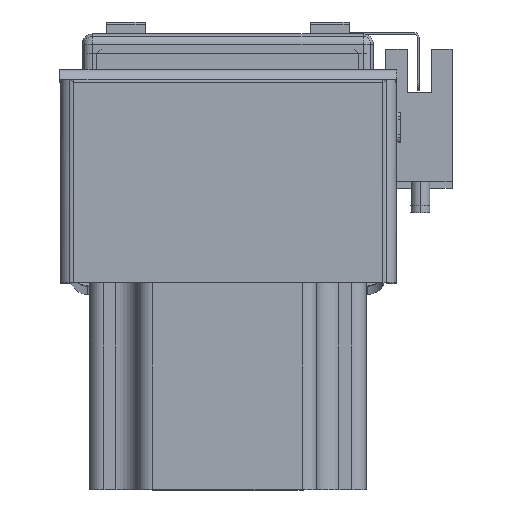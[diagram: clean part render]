
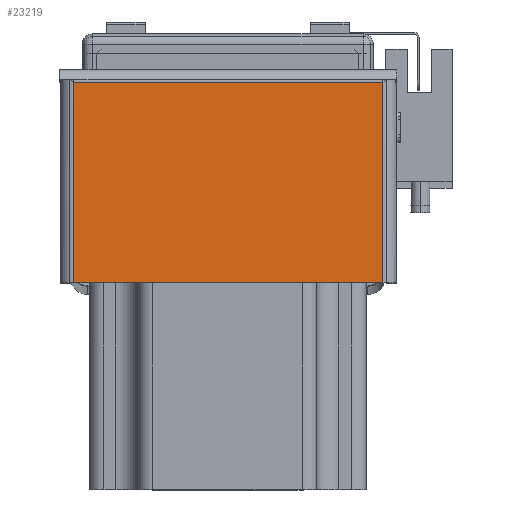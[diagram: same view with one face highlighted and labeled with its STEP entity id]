
A CAD part, top view. The second image highlights one B-rep face of the part: STEP entity #23219.
In plain terms, the highlighted planar face has unit normal (0, 0, 1) as drawn and (1, 0, 0) by its records, which use the part's own axes.
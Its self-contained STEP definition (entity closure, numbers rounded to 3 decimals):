
#4284 = FACE_OUTER_BOUND ( 'NONE', #25423, .T. ) ;
#6333 = AXIS2_PLACEMENT_3D ( 'NONE', #6770, #6786, #6764 ) ;
#6764 = DIRECTION ( 'NONE',  ( 0., 0., 1. ) ) ;
#6768 = PLANE ( 'NONE',  #6333 ) ;
#6770 = CARTESIAN_POINT ( 'NONE',  ( 2., 42., -32.6 ) ) ;
#6786 = DIRECTION ( 'NONE',  ( -1., 0., 0. ) ) ;
#23219 = ADVANCED_FACE ( 'NONE', ( #4284 ), #6768, .F. ) ;
#24674 = CARTESIAN_POINT ( 'NONE',  ( 2., 42., -31.863 ) ) ;
#24680 = CARTESIAN_POINT ( 'NONE',  ( 2., 41.263, -31.863 ) ) ;
#24683 = DIRECTION ( 'NONE',  ( 0., 0., 1. ) ) ;
#24698 = DIRECTION ( 'NONE',  ( 0., -1., 0. ) ) ;
#24778 = CARTESIAN_POINT ( 'NONE',  ( 2., 42., 31.863 ) ) ;
#24800 = DIRECTION ( 'NONE',  ( 0., -1., 0. ) ) ;
#24884 = CARTESIAN_POINT ( 'NONE',  ( 2., 0., -32.6 ) ) ;
#24905 = DIRECTION ( 'NONE',  ( 0., 0., -1. ) ) ;
#25423 = EDGE_LOOP ( 'NONE', ( #33425, #33413, #33421, #33410 ) ) ;
#27481 = LINE ( 'NONE', #24680, #27482 ) ;
#27482 = VECTOR ( 'NONE', #24683, 1000. ) ;
#27483 = VECTOR ( 'NONE', #24698, 1000. ) ;
#27488 = LINE ( 'NONE', #24674, #27483 ) ;
#27580 = LINE ( 'NONE', #24778, #27588 ) ;
#27588 = VECTOR ( 'NONE', #24800, 1000. ) ;
#27665 = LINE ( 'NONE', #24884, #27687 ) ;
#27687 = VECTOR ( 'NONE', #24905, 1000. ) ;
#28437 = VERTEX_POINT ( 'NONE', #31528 ) ;
#28457 = VERTEX_POINT ( 'NONE', #31533 ) ;
#28510 = VERTEX_POINT ( 'NONE', #31591 ) ;
#28545 = VERTEX_POINT ( 'NONE', #31567 ) ;
#30389 = EDGE_CURVE ( 'NONE', #28457, #28510, #27488, .T. ) ;
#30399 = EDGE_CURVE ( 'NONE', #28457, #28437, #27481, .T. ) ;
#30444 = EDGE_CURVE ( 'NONE', #28437, #28545, #27580, .T. ) ;
#30485 = EDGE_CURVE ( 'NONE', #28545, #28510, #27665, .T. ) ;
#31528 = CARTESIAN_POINT ( 'NONE',  ( 2., 41.263, 31.863 ) ) ;
#31533 = CARTESIAN_POINT ( 'NONE',  ( 2., 41.263, -31.863 ) ) ;
#31567 = CARTESIAN_POINT ( 'NONE',  ( 2., 0., 31.863 ) ) ;
#31591 = CARTESIAN_POINT ( 'NONE',  ( 2., 0., -31.863 ) ) ;
#33410 = ORIENTED_EDGE ( 'NONE', *, *, #30389, .F. ) ;
#33413 = ORIENTED_EDGE ( 'NONE', *, *, #30444, .T. ) ;
#33421 = ORIENTED_EDGE ( 'NONE', *, *, #30485, .T. ) ;
#33425 = ORIENTED_EDGE ( 'NONE', *, *, #30399, .T. ) ;
